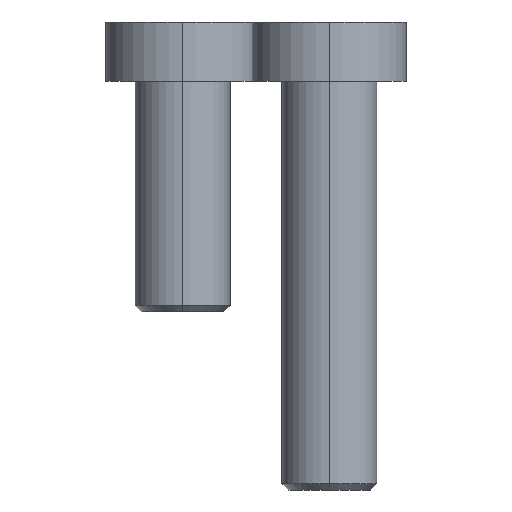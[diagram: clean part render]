
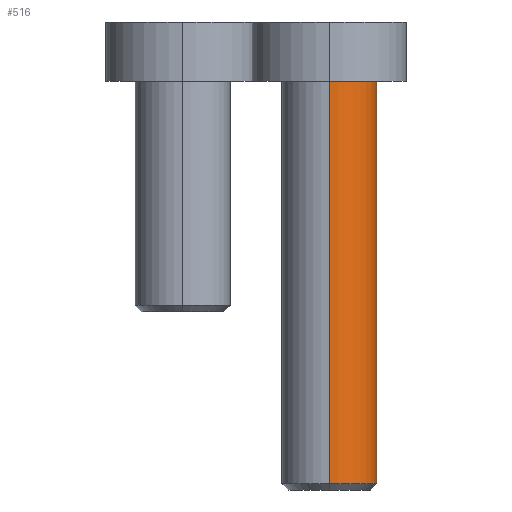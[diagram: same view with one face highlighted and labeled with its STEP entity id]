
A CAD part, left-side view. The second image highlights one B-rep face of the part: STEP entity #516.
In plain terms, the highlighted cylindrical face has radius 12 mm (diameter 24 mm), a partial arc.
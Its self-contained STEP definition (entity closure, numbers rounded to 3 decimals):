
#1 = ORIENTED_EDGE ( 'NONE', *, *, #477, .F. ) ;
#9 = ORIENTED_EDGE ( 'NONE', *, *, #479, .T. ) ;
#25 = ORIENTED_EDGE ( 'NONE', *, *, #485, .T. ) ;
#33 = EDGE_LOOP ( 'NONE', ( #1, #50, #9, #25 ) ) ;
#50 = ORIENTED_EDGE ( 'NONE', *, *, #493, .T. ) ;
#184 = VECTOR ( 'NONE', #730, 1000. ) ;
#188 = VECTOR ( 'NONE', #735, 1000. ) ;
#197 = CIRCLE ( 'NONE', #200, 12. ) ;
#200 = AXIS2_PLACEMENT_3D ( 'NONE', #752, #753, #754 ) ;
#207 = CIRCLE ( 'NONE', #210, 12. ) ;
#210 = AXIS2_PLACEMENT_3D ( 'NONE', #776, #777, #778 ) ;
#237 = AXIS2_PLACEMENT_3D ( 'NONE', #865, #868, #873 ) ;
#370 = CARTESIAN_POINT ( 'NONE',  ( -137.353, -37.1, -116.6 ) ) ;
#376 = CARTESIAN_POINT ( 'NONE',  ( -161.353, -37.1, -15. ) ) ;
#390 = CARTESIAN_POINT ( 'NONE',  ( -137.353, -37.1, -15. ) ) ;
#392 = CARTESIAN_POINT ( 'NONE',  ( -161.353, -37.1, -116.6 ) ) ;
#477 = EDGE_CURVE ( 'NONE', #633, #617, #722, .T. ) ;
#479 = EDGE_CURVE ( 'NONE', #610, #631, #727, .T. ) ;
#485 = EDGE_CURVE ( 'NONE', #631, #617, #197, .T. ) ;
#493 = EDGE_CURVE ( 'NONE', #633, #610, #207, .T. ) ;
#516 = ADVANCED_FACE ( 'NONE', ( #871 ), #870, .T. ) ;
#610 = VERTEX_POINT ( 'NONE', #370 ) ;
#617 = VERTEX_POINT ( 'NONE', #376 ) ;
#631 = VERTEX_POINT ( 'NONE', #390 ) ;
#633 = VERTEX_POINT ( 'NONE', #392 ) ;
#715 = CARTESIAN_POINT ( 'NONE',  ( -137.353, -37.1, -118.2 ) ) ;
#722 = LINE ( 'NONE', #729, #184 ) ;
#727 = LINE ( 'NONE', #715, #188 ) ;
#729 = CARTESIAN_POINT ( 'NONE',  ( -161.353, -37.1, -118.2 ) ) ;
#730 = DIRECTION ( 'NONE',  ( 0., 0., 1. ) ) ;
#735 = DIRECTION ( 'NONE',  ( 0., 0., 1. ) ) ;
#752 = CARTESIAN_POINT ( 'NONE',  ( -149.353, -37.1, -15. ) ) ;
#753 = DIRECTION ( 'NONE',  ( 0., 0., -1. ) ) ;
#754 = DIRECTION ( 'NONE',  ( 1., 0., 0. ) ) ;
#776 = CARTESIAN_POINT ( 'NONE',  ( -149.353, -37.1, -116.6 ) ) ;
#777 = DIRECTION ( 'NONE',  ( 0., 0., 1. ) ) ;
#778 = DIRECTION ( 'NONE',  ( -1., 0., 0. ) ) ;
#865 = CARTESIAN_POINT ( 'NONE',  ( -149.353, -37.1, -118.2 ) ) ;
#868 = DIRECTION ( 'NONE',  ( 0., 0., 1. ) ) ;
#870 = CYLINDRICAL_SURFACE ( 'NONE', #237, 12. ) ;
#871 = FACE_OUTER_BOUND ( 'NONE', #33, .T. ) ;
#873 = DIRECTION ( 'NONE',  ( 1., 0., 0. ) ) ;
